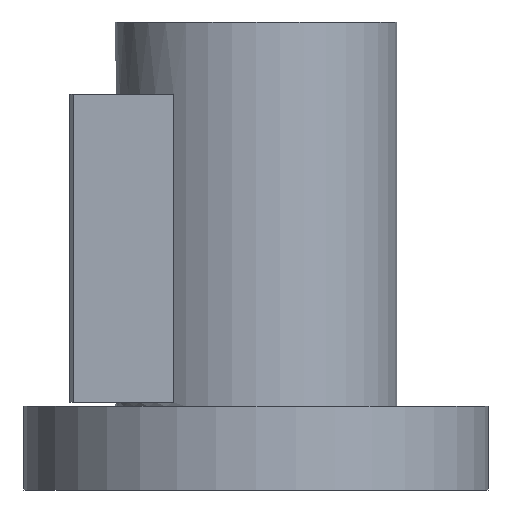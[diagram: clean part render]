
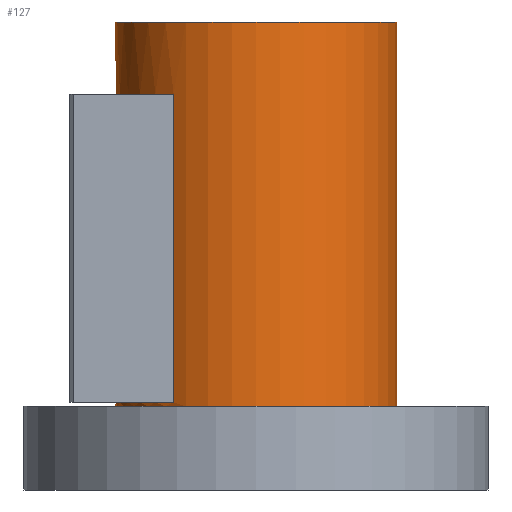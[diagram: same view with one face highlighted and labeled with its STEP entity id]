
A CAD part, front view. The second image highlights one B-rep face of the part: STEP entity #127.
In plain terms, the highlighted cylindrical face has radius 37 mm (diameter 74 mm), a full revolution.
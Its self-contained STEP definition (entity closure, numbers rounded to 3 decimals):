
#127=ADVANCED_FACE('',(#200,#201,#202),#155,.T.);
#155=CYLINDRICAL_SURFACE('',#508,37.);
#168=LINE('',#698,#184);
#169=LINE('',#702,#185);
#184=VECTOR('',#568,1.);
#185=VECTOR('',#571,1.);
#200=FACE_BOUND('',#245,.T.);
#201=FACE_BOUND('',#246,.T.);
#202=FACE_BOUND('',#247,.T.);
#245=EDGE_LOOP('',(#305));
#246=EDGE_LOOP('',(#306));
#247=EDGE_LOOP('',(#307,#308,#309,#310));
#305=ORIENTED_EDGE('',*,*,#431,.F.);
#306=ORIENTED_EDGE('',*,*,#432,.T.);
#307=ORIENTED_EDGE('',*,*,#433,.F.);
#308=ORIENTED_EDGE('',*,*,#434,.F.);
#309=ORIENTED_EDGE('',*,*,#435,.T.);
#310=ORIENTED_EDGE('',*,*,#436,.F.);
#393=VERTEX_POINT('',#692);
#394=VERTEX_POINT('',#694);
#395=VERTEX_POINT('',#696);
#396=VERTEX_POINT('',#697);
#397=VERTEX_POINT('',#699);
#398=VERTEX_POINT('',#701);
#431=EDGE_CURVE('',#393,#393,#475,.T.);
#432=EDGE_CURVE('',#394,#394,#476,.T.);
#433=EDGE_CURVE('',#395,#396,#477,.T.);
#434=EDGE_CURVE('',#397,#395,#168,.T.);
#435=EDGE_CURVE('',#397,#398,#478,.T.);
#436=EDGE_CURVE('',#396,#398,#169,.T.);
#475=CIRCLE('',#504,37.);
#476=CIRCLE('',#505,37.);
#477=CIRCLE('',#506,37.);
#478=CIRCLE('',#507,37.);
#504=AXIS2_PLACEMENT_3D('',#691,#562,#563);
#505=AXIS2_PLACEMENT_3D('',#693,#564,#565);
#506=AXIS2_PLACEMENT_3D('',#695,#566,#567);
#507=AXIS2_PLACEMENT_3D('',#700,#569,#570);
#508=AXIS2_PLACEMENT_3D('',#703,#572,#573);
#562=DIRECTION('',(0.,0.,1.));
#563=DIRECTION('',(1.,0.,0.));
#564=DIRECTION('',(0.,0.,1.));
#565=DIRECTION('',(1.,0.,0.));
#566=DIRECTION('',(0.,0.,-1.));
#567=DIRECTION('',(-1.,0.,0.));
#568=DIRECTION('',(0.,0.,1.));
#569=DIRECTION('',(0.,0.,-1.));
#570=DIRECTION('',(-1.,0.,0.));
#571=DIRECTION('',(0.,0.,-1.));
#572=DIRECTION('',(0.,0.,-1.));
#573=DIRECTION('',(-1.,0.,0.));
#691=CARTESIAN_POINT('',(0.,0.,123.));
#692=CARTESIAN_POINT('',(37.,0.,123.));
#693=CARTESIAN_POINT('',(0.,0.,22.));
#694=CARTESIAN_POINT('',(37.,0.,22.));
#695=CARTESIAN_POINT('',(0.,0.,104.));
#696=CARTESIAN_POINT('',(-21.656,-30.,104.));
#697=CARTESIAN_POINT('',(-21.656,30.,104.));
#698=CARTESIAN_POINT('',(-21.656,-30.,123.));
#699=CARTESIAN_POINT('',(-21.656,-30.,23.));
#700=CARTESIAN_POINT('',(0.,0.,23.));
#701=CARTESIAN_POINT('',(-21.656,30.,23.));
#702=CARTESIAN_POINT('',(-21.656,30.,123.));
#703=CARTESIAN_POINT('',(0.,0.,123.));
